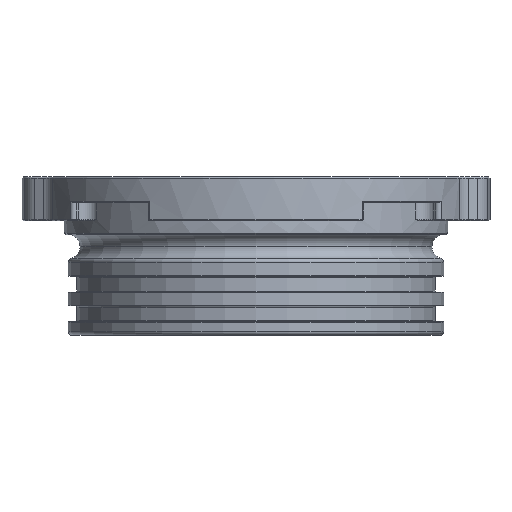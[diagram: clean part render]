
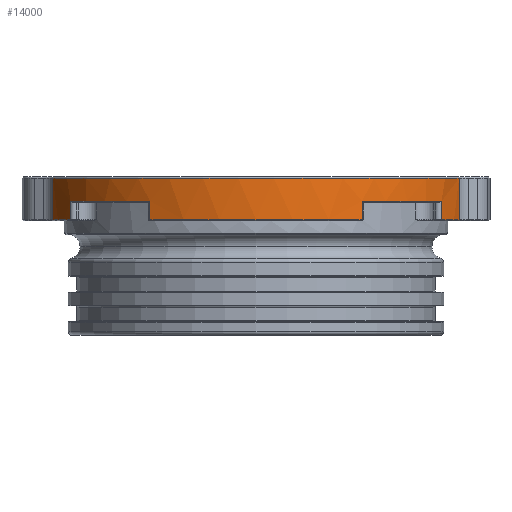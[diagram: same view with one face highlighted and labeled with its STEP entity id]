
A CAD part, front view. The second image highlights one B-rep face of the part: STEP entity #14000.
In plain terms, the highlighted cylindrical face has radius 29 mm (diameter 58 mm), a partial arc.
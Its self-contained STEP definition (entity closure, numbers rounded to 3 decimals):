
#390 = CARTESIAN_POINT ( 'NONE',  ( 25.18, -14.387, 18.2 ) ) ;
#698 = CARTESIAN_POINT ( 'NONE',  ( 0., 0., 15.7 ) ) ;
#933 = ORIENTED_EDGE ( 'NONE', *, *, #1900, .T. ) ;
#1035 = CARTESIAN_POINT ( 'NONE',  ( -27.555, -9.039, 15.7 ) ) ;
#1523 = DIRECTION ( 'NONE',  ( 0., 0., 1. ) ) ;
#1900 = EDGE_CURVE ( 'NONE', #15638, #2055, #12073, .T. ) ;
#2055 = VERTEX_POINT ( 'NONE', #8818 ) ;
#2390 = CARTESIAN_POINT ( 'NONE',  ( -25.18, -14.387, 0. ) ) ;
#2619 = ORIENTED_EDGE ( 'NONE', *, *, #11068, .T. ) ;
#2989 = DIRECTION ( 'NONE',  ( 1., 0., 0. ) ) ;
#3371 = DIRECTION ( 'NONE',  ( 0., 0., 1. ) ) ;
#3373 = DIRECTION ( 'NONE',  ( 1., 0., 0. ) ) ;
#3612 = VERTEX_POINT ( 'NONE', #24634 ) ;
#4016 = LINE ( 'NONE', #16206, #11812 ) ;
#4481 = VERTEX_POINT ( 'NONE', #13944 ) ;
#4555 = AXIS2_PLACEMENT_3D ( 'NONE', #9174, #20859, #8792 ) ;
#5191 = CARTESIAN_POINT ( 'NONE',  ( -27.555, -9.039, 21.3 ) ) ;
#5445 = DIRECTION ( 'NONE',  ( 0., 0., 1. ) ) ;
#5582 = ORIENTED_EDGE ( 'NONE', *, *, #20746, .T. ) ;
#5707 = CYLINDRICAL_SURFACE ( 'NONE', #13977, 29. ) ;
#6164 = ORIENTED_EDGE ( 'NONE', *, *, #17961, .T. ) ;
#6725 = CIRCLE ( 'NONE', #17076, 29. ) ;
#7112 = VERTEX_POINT ( 'NONE', #1035 ) ;
#7826 = CIRCLE ( 'NONE', #24784, 29. ) ;
#7845 = CIRCLE ( 'NONE', #4555, 29. ) ;
#7853 = CARTESIAN_POINT ( 'NONE',  ( 14.387, -25.18, 18.2 ) ) ;
#8218 = EDGE_CURVE ( 'NONE', #25533, #13782, #11986, .T. ) ;
#8396 = ORIENTED_EDGE ( 'NONE', *, *, #25398, .T. ) ;
#8416 = LINE ( 'NONE', #16072, #16229 ) ;
#8604 = DIRECTION ( 'NONE',  ( 0., 0., 1. ) ) ;
#8792 = DIRECTION ( 'NONE',  ( 1., 0., 0. ) ) ;
#8818 = CARTESIAN_POINT ( 'NONE',  ( 25.18, -14.387, 15.7 ) ) ;
#9072 = CIRCLE ( 'NONE', #12786, 29. ) ;
#9174 = CARTESIAN_POINT ( 'NONE',  ( 0., 0., 15.7 ) ) ;
#9175 = EDGE_CURVE ( 'NONE', #16630, #15438, #24587, .T. ) ;
#10356 = DIRECTION ( 'NONE',  ( 0., 0., -1. ) ) ;
#10958 = ORIENTED_EDGE ( 'NONE', *, *, #19235, .T. ) ;
#10963 = ORIENTED_EDGE ( 'NONE', *, *, #21304, .T. ) ;
#11068 = EDGE_CURVE ( 'NONE', #13790, #16809, #4016, .T. ) ;
#11142 = DIRECTION ( 'NONE',  ( 0., 0., -1. ) ) ;
#11390 = CARTESIAN_POINT ( 'NONE',  ( 0., 0., 18.2 ) ) ;
#11397 = ORIENTED_EDGE ( 'NONE', *, *, #11449, .T. ) ;
#11449 = EDGE_CURVE ( 'NONE', #4481, #16630, #13443, .T. ) ;
#11812 = VECTOR ( 'NONE', #10356, 1000. ) ;
#11986 = LINE ( 'NONE', #2390, #13822 ) ;
#12073 = LINE ( 'NONE', #23991, #18073 ) ;
#12786 = AXIS2_PLACEMENT_3D ( 'NONE', #13082, #3371, #2989 ) ;
#13082 = CARTESIAN_POINT ( 'NONE',  ( 0., 0., 15.7 ) ) ;
#13344 = CARTESIAN_POINT ( 'NONE',  ( 0., 0., 21.3 ) ) ;
#13443 = LINE ( 'NONE', #25104, #16796 ) ;
#13518 = ORIENTED_EDGE ( 'NONE', *, *, #9175, .T. ) ;
#13659 = DIRECTION ( 'NONE',  ( -1., 0., 0. ) ) ;
#13782 = VERTEX_POINT ( 'NONE', #22441 ) ;
#13790 = VERTEX_POINT ( 'NONE', #18676 ) ;
#13822 = VECTOR ( 'NONE', #18068, 1000. ) ;
#13944 = CARTESIAN_POINT ( 'NONE',  ( 27.555, -9.039, 15.7 ) ) ;
#13977 = AXIS2_PLACEMENT_3D ( 'NONE', #21527, #21138, #3373 ) ;
#14000 = ADVANCED_FACE ( 'NONE', ( #15167 ), #5707, .T. ) ;
#15167 = FACE_OUTER_BOUND ( 'NONE', #21691, .T. ) ;
#15438 = VERTEX_POINT ( 'NONE', #5191 ) ;
#15609 = CARTESIAN_POINT ( 'NONE',  ( 0., 0., 18.2 ) ) ;
#15638 = VERTEX_POINT ( 'NONE', #390 ) ;
#16072 = CARTESIAN_POINT ( 'NONE',  ( -27.555, -9.039, 0. ) ) ;
#16206 = CARTESIAN_POINT ( 'NONE',  ( -14.387, -25.18, 0. ) ) ;
#16229 = VECTOR ( 'NONE', #18005, 1000. ) ;
#16524 = DIRECTION ( 'NONE',  ( 1., 0., 0. ) ) ;
#16630 = VERTEX_POINT ( 'NONE', #23020 ) ;
#16796 = VECTOR ( 'NONE', #1523, 1000. ) ;
#16809 = VERTEX_POINT ( 'NONE', #18800 ) ;
#17076 = AXIS2_PLACEMENT_3D ( 'NONE', #15609, #21440, #13659 ) ;
#17243 = DIRECTION ( 'NONE',  ( -1., 0., 0. ) ) ;
#17704 = DIRECTION ( 'NONE',  ( 0., 0., 1. ) ) ;
#17961 = EDGE_CURVE ( 'NONE', #13782, #13790, #7826, .T. ) ;
#17982 = AXIS2_PLACEMENT_3D ( 'NONE', #13344, #11142, #17243 ) ;
#18005 = DIRECTION ( 'NONE',  ( 0., 0., -1. ) ) ;
#18068 = DIRECTION ( 'NONE',  ( 0., 0., 1. ) ) ;
#18073 = VECTOR ( 'NONE', #20117, 1000. ) ;
#18676 = CARTESIAN_POINT ( 'NONE',  ( -14.387, -25.18, 18.2 ) ) ;
#18800 = CARTESIAN_POINT ( 'NONE',  ( -14.387, -25.18, 15.7 ) ) ;
#19235 = EDGE_CURVE ( 'NONE', #3612, #19595, #25340, .T. ) ;
#19260 = CARTESIAN_POINT ( 'NONE',  ( 14.387, -25.18, 0. ) ) ;
#19595 = VERTEX_POINT ( 'NONE', #7853 ) ;
#19781 = ORIENTED_EDGE ( 'NONE', *, *, #22116, .T. ) ;
#20117 = DIRECTION ( 'NONE',  ( 0., 0., -1. ) ) ;
#20269 = CARTESIAN_POINT ( 'NONE',  ( -25.18, -14.387, 15.7 ) ) ;
#20679 = VECTOR ( 'NONE', #17704, 1000. ) ;
#20746 = EDGE_CURVE ( 'NONE', #7112, #25533, #9072, .T. ) ;
#20859 = DIRECTION ( 'NONE',  ( 0., 0., 1. ) ) ;
#21138 = DIRECTION ( 'NONE',  ( 0., 0., 1. ) ) ;
#21141 = DIRECTION ( 'NONE',  ( -1., 0., 0. ) ) ;
#21304 = EDGE_CURVE ( 'NONE', #16809, #3612, #7845, .T. ) ;
#21440 = DIRECTION ( 'NONE',  ( 0., 0., 1. ) ) ;
#21527 = CARTESIAN_POINT ( 'NONE',  ( 0., 0., 0. ) ) ;
#21691 = EDGE_LOOP ( 'NONE', ( #24709, #5582, #25049, #6164, #2619, #10963, #10958, #8396, #933, #19781, #11397, #13518 ) ) ;
#22116 = EDGE_CURVE ( 'NONE', #2055, #4481, #22350, .T. ) ;
#22350 = CIRCLE ( 'NONE', #25656, 29. ) ;
#22441 = CARTESIAN_POINT ( 'NONE',  ( -25.18, -14.387, 18.2 ) ) ;
#23020 = CARTESIAN_POINT ( 'NONE',  ( 27.555, -9.039, 21.3 ) ) ;
#23991 = CARTESIAN_POINT ( 'NONE',  ( 25.18, -14.387, 0. ) ) ;
#24494 = EDGE_CURVE ( 'NONE', #15438, #7112, #8416, .T. ) ;
#24587 = CIRCLE ( 'NONE', #17982, 29. ) ;
#24634 = CARTESIAN_POINT ( 'NONE',  ( 14.387, -25.18, 15.7 ) ) ;
#24709 = ORIENTED_EDGE ( 'NONE', *, *, #24494, .T. ) ;
#24784 = AXIS2_PLACEMENT_3D ( 'NONE', #11390, #5445, #21141 ) ;
#25049 = ORIENTED_EDGE ( 'NONE', *, *, #8218, .T. ) ;
#25104 = CARTESIAN_POINT ( 'NONE',  ( 27.555, -9.039, 0. ) ) ;
#25340 = LINE ( 'NONE', #19260, #20679 ) ;
#25398 = EDGE_CURVE ( 'NONE', #19595, #15638, #6725, .T. ) ;
#25533 = VERTEX_POINT ( 'NONE', #20269 ) ;
#25656 = AXIS2_PLACEMENT_3D ( 'NONE', #698, #8604, #16524 ) ;
